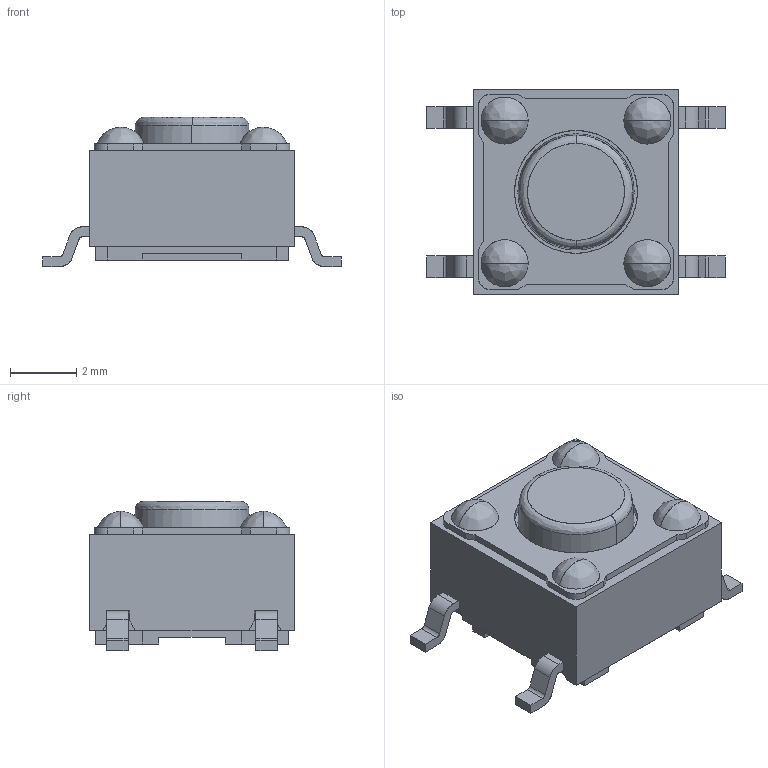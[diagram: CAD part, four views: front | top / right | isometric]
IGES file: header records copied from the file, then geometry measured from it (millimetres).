
Start section: SolidWorks IGES file using analytic representation for surfaces
Global section: file name: I:\J-暫存區\720\DTSM-61.IGS,15; native system: HSolidWorks 2008; preprocessor: SolidWorks 2008; author: 820201; date: 120523.092850; units: millimetre
Bounding box: 9 x 6.2 x 4.5 mm (x, y, z)
Surface area: 486.5 mm2 (no closed solid volume)
Topology: 0 solids, 0 shells, 483 faces, 3848 edges, 3832 vertices
Faces by surface type: bspline 339, revolution 144
